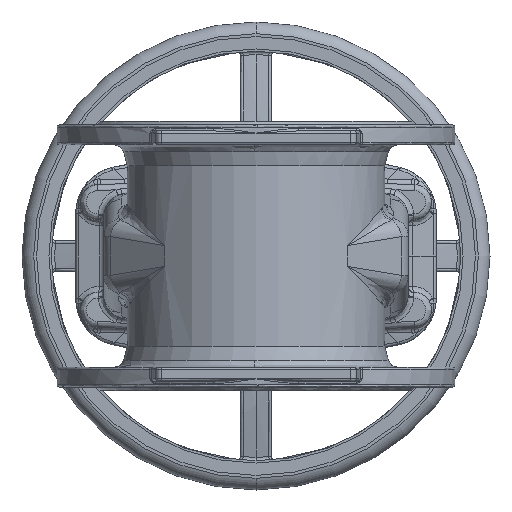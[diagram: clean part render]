
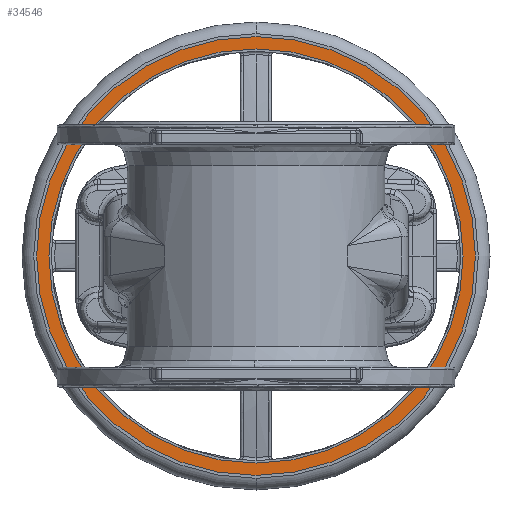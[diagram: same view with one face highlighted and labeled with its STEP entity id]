
A CAD part, front view. The second image highlights one B-rep face of the part: STEP entity #34546.
In plain terms, the highlighted planar face has unit normal (0, -1, 0).
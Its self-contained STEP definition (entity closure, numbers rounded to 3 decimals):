
#132 = EDGE_CURVE ( 'NONE', #67465, #36029, #561, .T. ) ;
#230 = EDGE_CURVE ( 'NONE', #67111, #82130, #635, .T. ) ;
#561 = CIRCLE ( 'NONE', #64124, 187.5 ) ;
#635 = CIRCLE ( 'NONE', #20595, 176.979 ) ;
#1829 = CARTESIAN_POINT ( 'NONE',  ( 0., 509., 0. ) ) ;
#2886 = EDGE_LOOP ( 'NONE', ( #4551, #37427 ) ) ;
#3199 = EDGE_LOOP ( 'NONE', ( #96807, #39224 ) ) ;
#4188 = DIRECTION ( 'NONE',  ( 0., 0., -1. ) ) ;
#4551 = ORIENTED_EDGE ( 'NONE', *, *, #230, .F. ) ;
#4906 = DIRECTION ( 'NONE',  ( 0., -1., 0. ) ) ;
#5460 = DIRECTION ( 'NONE',  ( 0., 0., -1. ) ) ;
#12589 = AXIS2_PLACEMENT_3D ( 'NONE', #82074, #71303, #4188 ) ;
#13731 = AXIS2_PLACEMENT_3D ( 'NONE', #1829, #42784, #97276 ) ;
#19891 = CIRCLE ( 'NONE', #12589, 176.979 ) ;
#20595 = AXIS2_PLACEMENT_3D ( 'NONE', #42360, #41817, #5460 ) ;
#32542 = CARTESIAN_POINT ( 'NONE',  ( 0., 509., 187.5 ) ) ;
#34546 = ADVANCED_FACE ( 'NONE', ( #36660, #73066 ), #107107, .F. ) ;
#36029 = VERTEX_POINT ( 'NONE', #32542 ) ;
#36660 = FACE_BOUND ( 'NONE', #2886, .T. ) ;
#37427 = ORIENTED_EDGE ( 'NONE', *, *, #84985, .F. ) ;
#38378 = DIRECTION ( 'NONE',  ( 0., 0., 1. ) ) ;
#39224 = ORIENTED_EDGE ( 'NONE', *, *, #100299, .T. ) ;
#41817 = DIRECTION ( 'NONE',  ( 0., -1., 0. ) ) ;
#42360 = CARTESIAN_POINT ( 'NONE',  ( 0., 509., 0. ) ) ;
#42784 = DIRECTION ( 'NONE',  ( 0., -1., 0. ) ) ;
#46339 = CARTESIAN_POINT ( 'NONE',  ( 176.979, 509., 0. ) ) ;
#64124 = AXIS2_PLACEMENT_3D ( 'NONE', #90746, #4906, #64642 ) ;
#64642 = DIRECTION ( 'NONE',  ( 0., 0., -1. ) ) ;
#67111 = VERTEX_POINT ( 'NONE', #107180 ) ;
#67465 = VERTEX_POINT ( 'NONE', #77584 ) ;
#71179 = AXIS2_PLACEMENT_3D ( 'NONE', #46339, #71371, #38378 ) ;
#71303 = DIRECTION ( 'NONE',  ( 0., -1., 0. ) ) ;
#71371 = DIRECTION ( 'NONE',  ( 0., 1., 0. ) ) ;
#73066 = FACE_OUTER_BOUND ( 'NONE', #3199, .T. ) ;
#77584 = CARTESIAN_POINT ( 'NONE',  ( 0., 509., -187.5 ) ) ;
#80939 = CIRCLE ( 'NONE', #13731, 187.5 ) ;
#82074 = CARTESIAN_POINT ( 'NONE',  ( 0., 509., 0. ) ) ;
#82130 = VERTEX_POINT ( 'NONE', #109268 ) ;
#84985 = EDGE_CURVE ( 'NONE', #82130, #67111, #19891, .T. ) ;
#90746 = CARTESIAN_POINT ( 'NONE',  ( 0., 509., 0. ) ) ;
#96807 = ORIENTED_EDGE ( 'NONE', *, *, #132, .T. ) ;
#97276 = DIRECTION ( 'NONE',  ( 0., 0., -1. ) ) ;
#100299 = EDGE_CURVE ( 'NONE', #36029, #67465, #80939, .T. ) ;
#107107 = PLANE ( 'NONE',  #71179 ) ;
#107180 = CARTESIAN_POINT ( 'NONE',  ( 0., 509., -176.979 ) ) ;
#109268 = CARTESIAN_POINT ( 'NONE',  ( 0., 509., 176.979 ) ) ;
